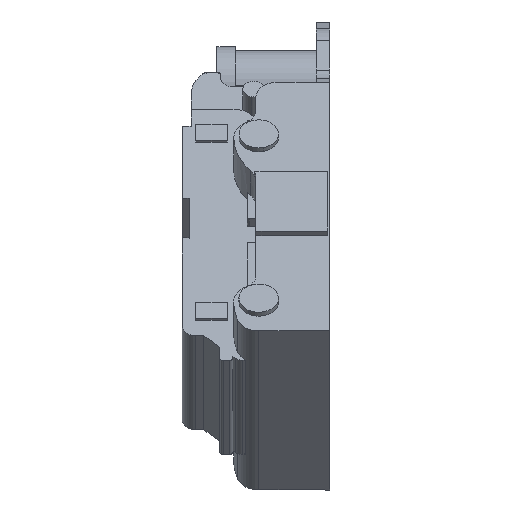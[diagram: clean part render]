
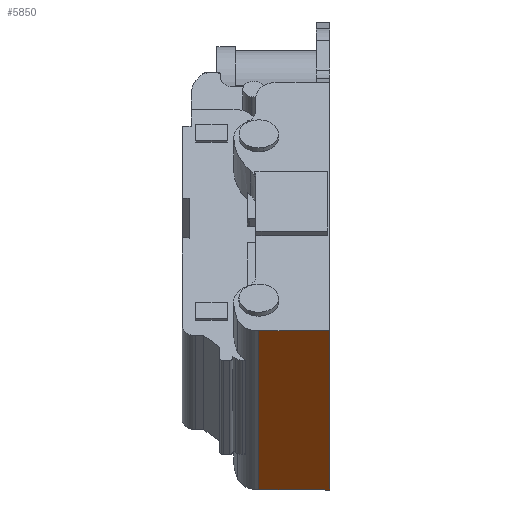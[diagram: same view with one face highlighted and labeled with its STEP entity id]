
A CAD part, left-side view. The second image highlights one B-rep face of the part: STEP entity #5850.
In plain terms, the highlighted planar face has unit normal (-0.702, 0, -0.712).
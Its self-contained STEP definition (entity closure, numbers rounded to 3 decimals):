
#47 = DIRECTION ( 'NONE',  ( 0., 1., 0. ) ) ;
#206 = ORIENTED_EDGE ( 'NONE', *, *, #5942, .T. ) ;
#219 = LINE ( 'NONE', #1480, #4695 ) ;
#1148 = ORIENTED_EDGE ( 'NONE', *, *, #4944, .T. ) ;
#1208 = CARTESIAN_POINT ( 'NONE',  ( -11.854, -6.8, -12.742 ) ) ;
#1480 = CARTESIAN_POINT ( 'NONE',  ( -19.541, -1.6, -5.156 ) ) ;
#1505 = VECTOR ( 'NONE', #3431, 1000. ) ;
#1562 = CARTESIAN_POINT ( 'NONE',  ( -4.878, -0.35, -19.625 ) ) ;
#1625 = CARTESIAN_POINT ( 'NONE',  ( -4.878, 0.407, -19.625 ) ) ;
#1641 = CARTESIAN_POINT ( 'NONE',  ( -19.541, -6.8, -5.156 ) ) ;
#1995 = LINE ( 'NONE', #1625, #3794 ) ;
#2414 = PLANE ( 'NONE',  #3114 ) ;
#2538 = ORIENTED_EDGE ( 'NONE', *, *, #5624, .F. ) ;
#2582 = VERTEX_POINT ( 'NONE', #5898 ) ;
#2877 = FACE_OUTER_BOUND ( 'NONE', #4212, .T. ) ;
#3048 = CARTESIAN_POINT ( 'NONE',  ( -4.878, -0.35, -19.625 ) ) ;
#3081 = DIRECTION ( 'NONE',  ( 0.712, 0., -0.702 ) ) ;
#3114 = AXIS2_PLACEMENT_3D ( 'NONE', #5068, #4616, #47 ) ;
#3348 = DIRECTION ( 'NONE',  ( 0., 1., 0. ) ) ;
#3431 = DIRECTION ( 'NONE',  ( 0.712, 0., -0.702 ) ) ;
#3794 = VECTOR ( 'NONE', #5373, 1000. ) ;
#4212 = EDGE_LOOP ( 'NONE', ( #1148, #206, #4517, #2538 ) ) ;
#4429 = VERTEX_POINT ( 'NONE', #1641 ) ;
#4446 = LINE ( 'NONE', #1562, #1505 ) ;
#4488 = LINE ( 'NONE', #1208, #5879 ) ;
#4517 = ORIENTED_EDGE ( 'NONE', *, *, #5113, .T. ) ;
#4616 = DIRECTION ( 'NONE',  ( 0.702, 0., 0.712 ) ) ;
#4695 = VECTOR ( 'NONE', #3348, 1000. ) ;
#4944 = EDGE_CURVE ( 'NONE', #4429, #2582, #219, .T. ) ;
#5051 = VERTEX_POINT ( 'NONE', #3048 ) ;
#5068 = CARTESIAN_POINT ( 'NONE',  ( -17.192, -3.6, -7.474 ) ) ;
#5113 = EDGE_CURVE ( 'NONE', #5051, #5225, #1995, .T. ) ;
#5225 = VERTEX_POINT ( 'NONE', #5886 ) ;
#5373 = DIRECTION ( 'NONE',  ( 0., -1., 0. ) ) ;
#5624 = EDGE_CURVE ( 'NONE', #4429, #5225, #4488, .T. ) ;
#5850 = ADVANCED_FACE ( 'NONE', ( #2877 ), #2414, .F. ) ;
#5879 = VECTOR ( 'NONE', #3081, 1000. ) ;
#5886 = CARTESIAN_POINT ( 'NONE',  ( -4.878, -6.8, -19.625 ) ) ;
#5898 = CARTESIAN_POINT ( 'NONE',  ( -19.541, -0.35, -5.156 ) ) ;
#5942 = EDGE_CURVE ( 'NONE', #2582, #5051, #4446, .T. ) ;
